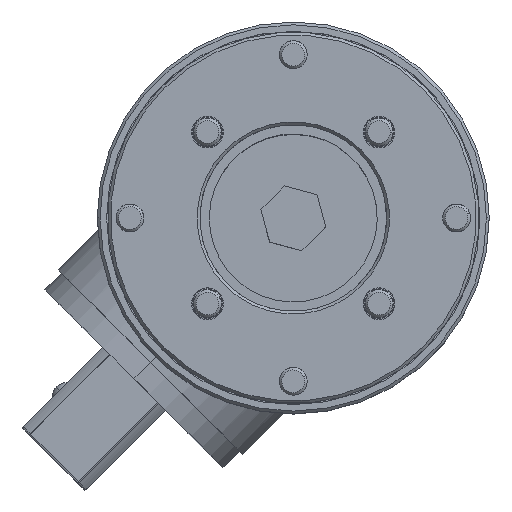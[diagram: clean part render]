
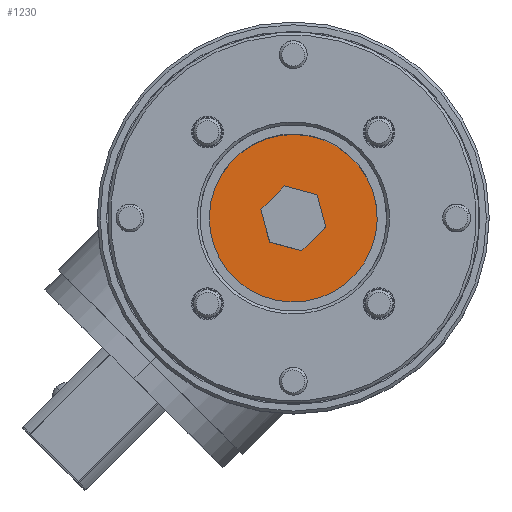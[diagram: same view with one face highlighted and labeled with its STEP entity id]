
A CAD part, top view. The second image highlights one B-rep face of the part: STEP entity #1230.
In plain terms, the highlighted planar face has unit normal (0, 0, 1).
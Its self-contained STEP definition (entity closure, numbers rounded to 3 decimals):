
#167 = AXIS2_PLACEMENT_3D ( 'NONE', #16599, #8720, #2142 ) ;
#404 = ORIENTED_EDGE ( 'NONE', *, *, #13072, .F. ) ;
#597 = EDGE_CURVE ( 'NONE', #8156, #9611, #14622, .T. ) ;
#809 = CARTESIAN_POINT ( 'NONE',  ( -7.538, 11.731, -17.29 ) ) ;
#1090 = VERTEX_POINT ( 'NONE', #809 ) ;
#1230 = ADVANCED_FACE ( 'NONE', ( #2826, #16835 ), #6626, .T. ) ;
#1435 = VECTOR ( 'NONE', #15431, 1000. ) ;
#2142 = DIRECTION ( 'NONE',  ( 0.707, -0.707, 0. ) ) ;
#2629 = ORIENTED_EDGE ( 'NONE', *, *, #8453, .F. ) ;
#2826 = FACE_OUTER_BOUND ( 'NONE', #4595, .T. ) ;
#2844 = VERTEX_POINT ( 'NONE', #3360 ) ;
#3333 = CIRCLE ( 'NONE', #167, 11. ) ;
#3360 = CARTESIAN_POINT ( 'NONE',  ( 2.78, 6.492, -17.29 ) ) ;
#3732 = LINE ( 'NONE', #16731, #16308 ) ;
#3816 = CARTESIAN_POINT ( 'NONE',  ( -0.689, 7.422, -17.29 ) ) ;
#4595 = EDGE_LOOP ( 'NONE', ( #7884, #8253 ) ) ;
#4869 = ORIENTED_EDGE ( 'NONE', *, *, #597, .F. ) ;
#5097 = AXIS2_PLACEMENT_3D ( 'NONE', #12738, #12857, #15432 ) ;
#5538 = CARTESIAN_POINT ( 'NONE',  ( -2.299, 1.414, -17.29 ) ) ;
#5592 = DIRECTION ( 'NONE',  ( -0.259, 0.966, 0. ) ) ;
#5880 = ORIENTED_EDGE ( 'NONE', *, *, #6886, .F. ) ;
#5943 = ORIENTED_EDGE ( 'NONE', *, *, #9945, .F. ) ;
#6401 = VERTEX_POINT ( 'NONE', #14403 ) ;
#6626 = PLANE ( 'NONE',  #16434 ) ;
#6886 = EDGE_CURVE ( 'NONE', #9611, #11819, #14389, .T. ) ;
#7261 = DIRECTION ( 'NONE',  ( 0.707, 0.707, 0. ) ) ;
#7475 = VECTOR ( 'NONE', #5592, 1000. ) ;
#7678 = CARTESIAN_POINT ( 'NONE',  ( -3.228, 4.883, -17.29 ) ) ;
#7884 = ORIENTED_EDGE ( 'NONE', *, *, #8173, .T. ) ;
#7907 = EDGE_CURVE ( 'NONE', #16805, #2844, #8743, .T. ) ;
#8156 = VERTEX_POINT ( 'NONE', #3816 ) ;
#8173 = EDGE_CURVE ( 'NONE', #1090, #10731, #3333, .T. ) ;
#8253 = ORIENTED_EDGE ( 'NONE', *, *, #12192, .T. ) ;
#8453 = EDGE_CURVE ( 'NONE', #2844, #8156, #3732, .T. ) ;
#8682 = DIRECTION ( 'NONE',  ( -0.966, 0.259, 0. ) ) ;
#8720 = DIRECTION ( 'NONE',  ( 0., 0., 1. ) ) ;
#8743 = LINE ( 'NONE', #16089, #7475 ) ;
#8761 = CARTESIAN_POINT ( 'NONE',  ( -0.689, 7.422, -17.29 ) ) ;
#8782 = VECTOR ( 'NONE', #7261, 1000. ) ;
#9611 = VERTEX_POINT ( 'NONE', #7678 ) ;
#9945 = EDGE_CURVE ( 'NONE', #6401, #16805, #10458, .T. ) ;
#10458 = LINE ( 'NONE', #12521, #8782 ) ;
#10731 = VERTEX_POINT ( 'NONE', #14661 ) ;
#10756 = CARTESIAN_POINT ( 'NONE',  ( -2.299, 1.414, -17.29 ) ) ;
#10962 = EDGE_LOOP ( 'NONE', ( #16636, #5943, #404, #5880, #4869, #2629 ) ) ;
#11819 = VERTEX_POINT ( 'NONE', #10756 ) ;
#12114 = CARTESIAN_POINT ( 'NONE',  ( 0.24, 3.953, -17.29 ) ) ;
#12181 = CARTESIAN_POINT ( 'NONE',  ( 3.709, 3.024, -17.29 ) ) ;
#12192 = EDGE_CURVE ( 'NONE', #10731, #1090, #15001, .T. ) ;
#12521 = CARTESIAN_POINT ( 'NONE',  ( 1.17, 0.484, -17.29 ) ) ;
#12738 = CARTESIAN_POINT ( 'NONE',  ( 0.24, 3.953, -17.29 ) ) ;
#12857 = DIRECTION ( 'NONE',  ( 0., 0., 1. ) ) ;
#13072 = EDGE_CURVE ( 'NONE', #11819, #6401, #17002, .T. ) ;
#13443 = DIRECTION ( 'NONE',  ( 0., 0., 1. ) ) ;
#13608 = CARTESIAN_POINT ( 'NONE',  ( -3.228, 4.883, -17.29 ) ) ;
#14389 = LINE ( 'NONE', #13608, #17067 ) ;
#14403 = CARTESIAN_POINT ( 'NONE',  ( 1.17, 0.484, -17.29 ) ) ;
#14622 = LINE ( 'NONE', #8761, #1435 ) ;
#14627 = DIRECTION ( 'NONE',  ( 0.707, -0.707, 0. ) ) ;
#14661 = CARTESIAN_POINT ( 'NONE',  ( 8.019, -3.825, -17.29 ) ) ;
#15001 = CIRCLE ( 'NONE', #5097, 11. ) ;
#15431 = DIRECTION ( 'NONE',  ( -0.707, -0.707, 0. ) ) ;
#15432 = DIRECTION ( 'NONE',  ( 0.707, -0.707, 0. ) ) ;
#16024 = DIRECTION ( 'NONE',  ( 0.966, -0.259, 0. ) ) ;
#16089 = CARTESIAN_POINT ( 'NONE',  ( 3.709, 3.024, -17.29 ) ) ;
#16308 = VECTOR ( 'NONE', #8682, 1000. ) ;
#16421 = DIRECTION ( 'NONE',  ( 0.259, -0.966, 0. ) ) ;
#16434 = AXIS2_PLACEMENT_3D ( 'NONE', #12114, #13443, #14627 ) ;
#16599 = CARTESIAN_POINT ( 'NONE',  ( 0.24, 3.953, -17.29 ) ) ;
#16636 = ORIENTED_EDGE ( 'NONE', *, *, #7907, .F. ) ;
#16731 = CARTESIAN_POINT ( 'NONE',  ( 2.78, 6.492, -17.29 ) ) ;
#16795 = VECTOR ( 'NONE', #16024, 1000. ) ;
#16805 = VERTEX_POINT ( 'NONE', #12181 ) ;
#16835 = FACE_BOUND ( 'NONE', #10962, .T. ) ;
#17002 = LINE ( 'NONE', #5538, #16795 ) ;
#17067 = VECTOR ( 'NONE', #16421, 1000. ) ;
